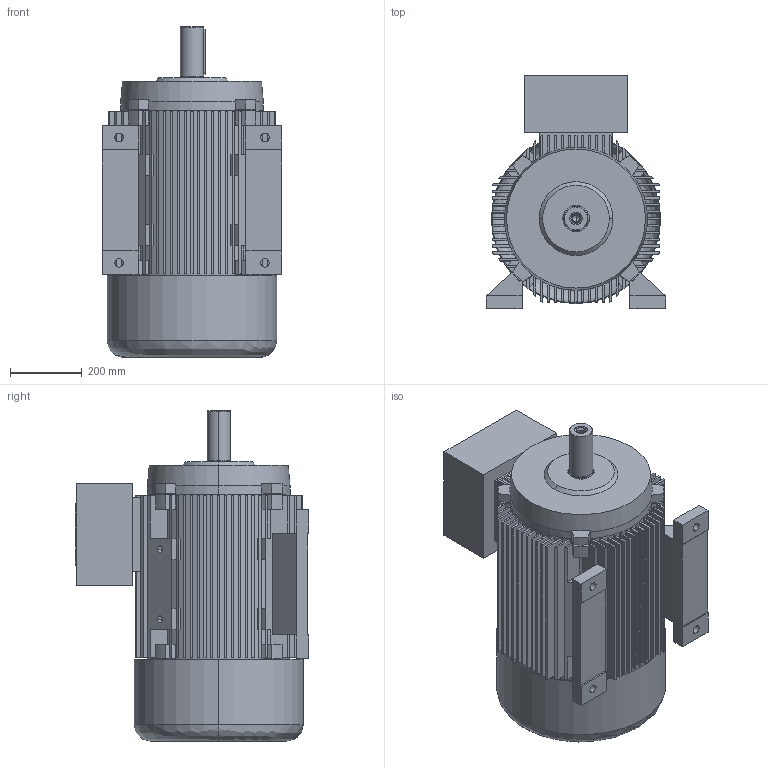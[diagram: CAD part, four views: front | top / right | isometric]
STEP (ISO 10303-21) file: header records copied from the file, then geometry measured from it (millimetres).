
FILE_DESCRIPTION (( 'STEP AP203' ), '1' );
FILE_NAME ('20.18428_A 7AT 250M - 4, -6,-8 B3 STANDK.STEP', '2018-04-26T05:13:46', ( '' ), ( '' ), 'SwSTEP 2.0', 'SolidWorks 2017', '' );
FILE_SCHEMA (( 'CONFIG_CONTROL_DESIGN' ));
Length unit declared in the file: millimetre
Products named in the file (1): 20.18428_A 7AT 250M - 4, -6,-8 B3 STANDK
Bounding box: 500 x 649 x 920 mm (x, y, z)
Volume: 49412599.9 mm3; surface area: 6113481.9 mm2
Topology: 8 solids, 8 shells, 813 faces, 2183 edges, 1435 vertices
Faces by surface type: plane 644, cylinder 118, cone 38, bspline 13
Entity records: 25977 total; most frequent: CARTESIAN_POINT 5259, ORIENTED_EDGE 4330, DIRECTION 4223, EDGE_CURVE 2165, LINE 1625, VECTOR 1625, VERTEX_POINT 1435, AXIS2_PLACEMENT_3D 1299
